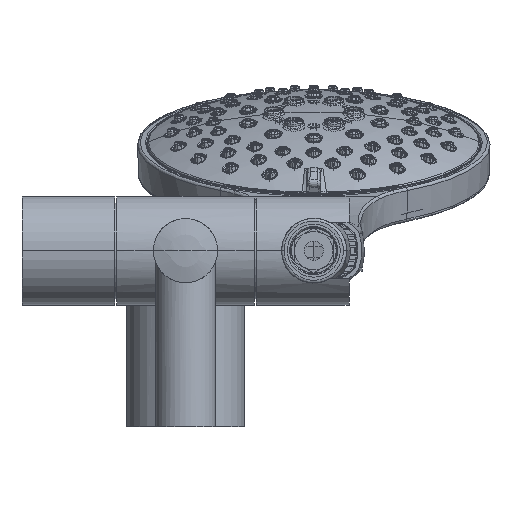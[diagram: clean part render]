
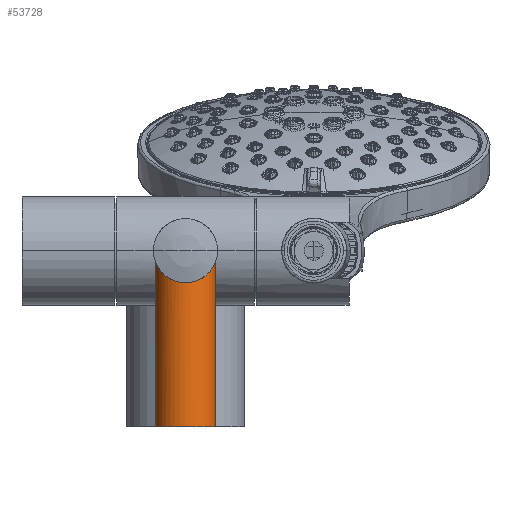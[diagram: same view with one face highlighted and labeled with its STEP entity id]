
A CAD part, front view. The second image highlights one B-rep face of the part: STEP entity #53728.
In plain terms, the highlighted cylindrical face has radius 9.5 mm (diameter 19 mm), a partial arc.
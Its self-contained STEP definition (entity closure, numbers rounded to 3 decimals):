
#21240=CARTESIAN_POINT('',(-9.5,-370.,-3.122));
#21293=CARTESIAN_POINT('',(9.5,-370.,-3.122));
#21295=CARTESIAN_POINT('',(9.5,-370.,-3.122));
#21296=CARTESIAN_POINT('',(9.5,-370.1,-3.122));
#21297=CARTESIAN_POINT('',(9.497,-370.305,
-3.132));
#21298=CARTESIAN_POINT('',(9.481,-370.63,
-3.18));
#21299=CARTESIAN_POINT('',(9.452,-370.973,
-3.265));
#21300=CARTESIAN_POINT('',(9.408,-371.34,
-3.392));
#21301=CARTESIAN_POINT('',(9.344,-371.731,
-3.564));
#21302=CARTESIAN_POINT('',(9.257,-372.151,
-3.786));
#21303=CARTESIAN_POINT('',(9.14,-372.607,
-4.062));
#21304=CARTESIAN_POINT('',(8.985,-373.102,
-4.396));
#21305=CARTESIAN_POINT('',(8.782,-373.639,
-4.79));
#21306=CARTESIAN_POINT('',(8.522,-374.216,
-5.243));
#21307=CARTESIAN_POINT('',(8.191,-374.831,
-5.749));
#21308=CARTESIAN_POINT('',(7.782,-375.467,
-6.294));
#21309=CARTESIAN_POINT('',(7.313,-376.08,
-6.833));
#21310=CARTESIAN_POINT('',(6.81,-376.638,
-7.334));
#21311=CARTESIAN_POINT('',(6.279,-377.141,
-7.793));
#21312=CARTESIAN_POINT('',(5.733,-377.585,
-8.203));
#21313=CARTESIAN_POINT('',(5.175,-377.976,
-8.565));
#21314=CARTESIAN_POINT('',(4.61,-378.315,
-8.882));
#21315=CARTESIAN_POINT('',(4.039,-378.607,
-9.155));
#21316=CARTESIAN_POINT('',(3.463,-378.854,
-9.388));
#21317=CARTESIAN_POINT('',(2.887,-379.057,
-9.58));
#21318=CARTESIAN_POINT('',(2.312,-379.221,
-9.735));
#21319=CARTESIAN_POINT('',(1.733,-379.347,
-9.854));
#21320=CARTESIAN_POINT('',(1.155,-379.435,
-9.939));
#21321=CARTESIAN_POINT('',(0.581,-379.488,
-9.989));
#21322=CARTESIAN_POINT('',(0.004,-379.506,
-10.006));
#21323=CARTESIAN_POINT('',(-0.575,-379.488,
-9.989));
#21324=CARTESIAN_POINT('',(-1.155,-379.436,
-9.939));
#21325=CARTESIAN_POINT('',(-1.731,-379.347,
-9.855));
#21326=CARTESIAN_POINT('',(-2.31,-379.221,
-9.736));
#21327=CARTESIAN_POINT('',(-2.89,-379.057,
-9.58));
#21328=CARTESIAN_POINT('',(-3.469,-378.851,
-9.386));
#21329=CARTESIAN_POINT('',(-4.041,-378.605,
-9.154));
#21330=CARTESIAN_POINT('',(-4.612,-378.314,
-8.881));
#21331=CARTESIAN_POINT('',(-5.179,-377.974,
-8.563));
#21332=CARTESIAN_POINT('',(-5.738,-377.582,
-8.2));
#21333=CARTESIAN_POINT('',(-6.284,-377.137,
-7.789));
#21334=CARTESIAN_POINT('',(-6.814,-376.633,
-7.33));
#21335=CARTESIAN_POINT('',(-7.316,-376.076,
-6.83));
#21336=CARTESIAN_POINT('',(-7.781,-375.468,
-6.294));
#21337=CARTESIAN_POINT('',(-8.189,-374.834,
-5.751));
#21338=CARTESIAN_POINT('',(-8.52,-374.219,
-5.245));
#21339=CARTESIAN_POINT('',(-8.781,-373.641,
-4.792));
#21340=CARTESIAN_POINT('',(-8.984,-373.104,
-4.398));
#21341=CARTESIAN_POINT('',(-9.139,-372.608,
-4.063));
#21342=CARTESIAN_POINT('',(-9.257,-372.152,
-3.786));
#21343=CARTESIAN_POINT('',(-9.344,-371.731,
-3.564));
#21344=CARTESIAN_POINT('',(-9.408,-371.339,
-3.392));
#21345=CARTESIAN_POINT('',(-9.452,-370.972,
-3.265));
#21346=CARTESIAN_POINT('',(-9.481,-370.63,
-3.18));
#21347=CARTESIAN_POINT('',(-9.497,-370.305,
-3.132));
#21348=CARTESIAN_POINT('',(-9.5,-370.1,-3.122));
#21349=CARTESIAN_POINT('',(-9.5,-370.,-3.122));
#21967=DIRECTION('',(0.,0.,-1.));
#21968=VECTOR('',#21967,51.878);
#21969=CARTESIAN_POINT('',(9.5,-370.,-3.122));
#21970=LINE('',#21969,#21968);
#21971=DIRECTION('',(0.,0.,-1.));
#21972=VECTOR('',#21971,51.878);
#21973=CARTESIAN_POINT('',(-9.5,-370.,-3.122));
#21974=LINE('',#21973,#21972);
#21980=CARTESIAN_POINT('',(0.,-370.,-55.));
#21981=DIRECTION('',(0.,0.,1.));
#21982=DIRECTION('',(-1.,0.,0.));
#21983=AXIS2_PLACEMENT_3D('',#21980,#21981,#21982);
#24166=CARTESIAN_POINT('',(9.5,-370.,-55.));
#24167=CARTESIAN_POINT('',(-9.5,-370.,-55.));
#24168=VERTEX_POINT('',#24166);
#24169=VERTEX_POINT('',#24167);
#24170=VERTEX_POINT('',#21240);
#24171=VERTEX_POINT('',#21293);
#53716=CARTESIAN_POINT('',(0.,-370.,0.));
#53717=DIRECTION('',(0.,0.,1.));
#53718=DIRECTION('',(1.,0.,0.));
#53719=AXIS2_PLACEMENT_3D('',#53716,#53717,#53718);
#53720=CYLINDRICAL_SURFACE('',#53719,9.5);
#53721=ORIENTED_EDGE('',*,*,#53337,.F.);
#53722=ORIENTED_EDGE('',*,*,#53711,.T.);
#53724=ORIENTED_EDGE('',*,*,#53723,.F.);
#53725=ORIENTED_EDGE('',*,*,#53707,.F.);
#53726=EDGE_LOOP('',(#53721,#53722,#53724,#53725));
#53727=FACE_OUTER_BOUND('',#53726,.F.);
#53728=ADVANCED_FACE('',(#53727),#53720,.T.);
#21350=B_SPLINE_CURVE_WITH_KNOTS('',3,(#21295,#21296,#21297,#21298,#21299,
#21300,#21301,#21302,#21303,#21304,#21305,#21306,#21307,#21308,#21309,#21310,
#21311,#21312,#21313,#21314,#21315,#21316,#21317,#21318,#21319,#21320,#21321,
#21322,#21323,#21324,#21325,#21326,#21327,#21328,#21329,#21330,#21331,#21332,
#21333,#21334,#21335,#21336,#21337,#21338,#21339,#21340,#21341,#21342,#21343,
#21344,#21345,#21346,#21347,#21348,#21349),.UNSPECIFIED.,.F.,.F.,(4,1,1,1,1,1,1,
1,1,1,1,1,1,1,1,1,1,1,1,1,1,1,1,1,1,1,1,1,1,1,1,1,1,1,1,1,1,1,1,1,1,1,1,1,1,1,1,
1,1,1,1,1,4),(0.,0.019,0.038,0.058,
0.077,0.096,0.115,0.135,
0.154,0.173,0.192,0.212,
0.231,0.25,0.269,0.288,0.308,
0.327,0.346,0.365,0.385,
0.404,0.423,0.442,0.462,
0.481,0.5,0.519,0.538,0.558,
0.577,0.596,0.615,0.635,
0.654,0.673,0.692,0.712,
0.731,0.75,0.769,0.788,0.808,
0.827,0.846,0.865,0.885,
0.904,0.923,0.942,0.962,
0.981,1.),.UNSPECIFIED.);
#21984=CIRCLE('',#21983,9.5);
#53337=EDGE_CURVE('',#24171,#24170,#21350,.T.);
#53707=EDGE_CURVE('',#24170,#24169,#21974,.T.);
#53711=EDGE_CURVE('',#24171,#24168,#21970,.T.);
#53723=EDGE_CURVE('',#24169,#24168,#21984,.T.);
